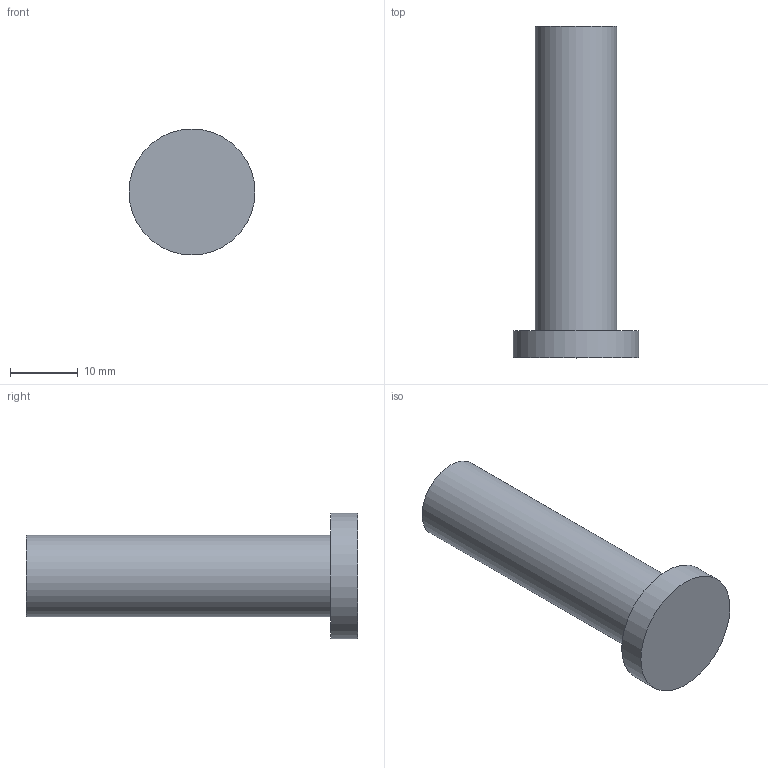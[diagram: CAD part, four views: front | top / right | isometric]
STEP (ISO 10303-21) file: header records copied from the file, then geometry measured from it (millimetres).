
FILE_DESCRIPTION(('Open CASCADE Model'),'2;1');
FILE_NAME('Open CASCADE Shape Model','2026-10-20T13:19:35',('Author'),( 'Open CASCADE'),'Open CASCADE STEP processor 7.9','Open CASCADE 7.9' ,'Unknown');
FILE_SCHEMA(('AUTOMOTIVE_DESIGN { 1 0 10303 214 1 1 1 1 }'));
Length unit declared in the file: millimetre
Products named in the file (1): Open CASCADE STEP translator 7.9 79
Bounding box: 18.6 x 49 x 18.6 mm (x, y, z)
Volume: 6176.2 mm3; surface area: 2473.6 mm2
Topology: 1 solids, 1 shells, 5 faces, 6 edges, 4 vertices
Faces by surface type: plane 3, cylinder 2
Full cylindrical faces by diameter (mm): 12 x1, 18.6 x1
Entity records: 192 total; most frequent: DIRECTION 34, CARTESIAN_POINT 28, ORIENTED_EDGE 12, PCURVE 12, DEFINITIONAL_REPRESENTATION 12, AXIS2_PLACEMENT_3D 10, LINE 10, VECTOR 10
